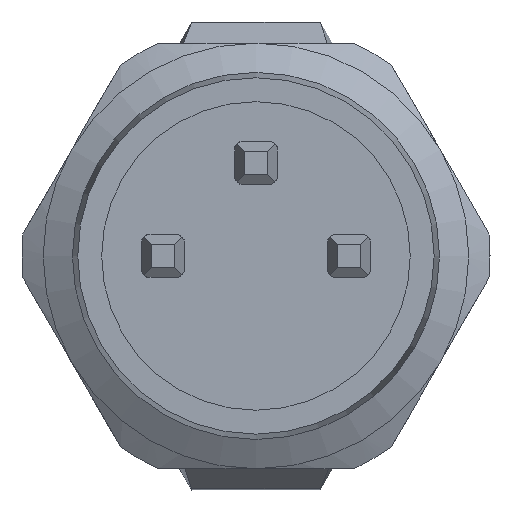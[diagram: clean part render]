
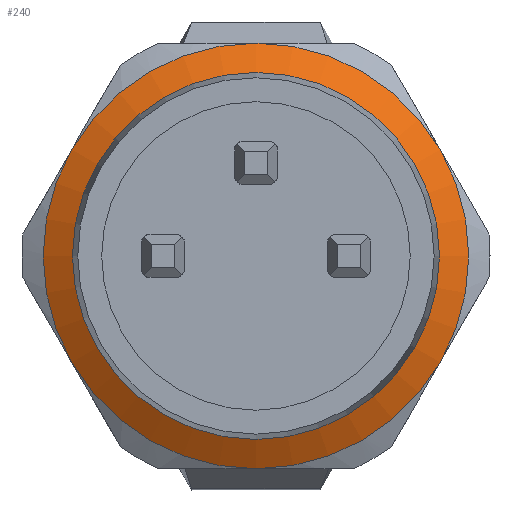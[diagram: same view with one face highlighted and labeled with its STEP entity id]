
A CAD part, left-side view. The second image highlights one B-rep face of the part: STEP entity #240.
In plain terms, the highlighted conical face has half-angle 60 degrees and reference radius 4 mm.
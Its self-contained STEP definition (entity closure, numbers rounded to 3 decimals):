
#240 = ADVANCED_FACE( '', ( #407, #408 ), #409, .T. );
#407 = FACE_BOUND( '', #603, .T. );
#408 = FACE_OUTER_BOUND( '', #604, .T. );
#409 = CONICAL_SURFACE( '', #605, 4., 1.047 );
#603 = EDGE_LOOP( '', ( #1095 ) );
#604 = EDGE_LOOP( '', ( #1096 ) );
#605 = AXIS2_PLACEMENT_3D( '', #1097, #1098, #1099 );
#1095 = ORIENTED_EDGE( '', *, *, #1375, .F. );
#1096 = ORIENTED_EDGE( '', *, *, #1376, .T. );
#1097 = CARTESIAN_POINT( '', ( -41.547, 0., 0. ) );
#1098 = DIRECTION( '', ( 1., 0., 0. ) );
#1099 = DIRECTION( '', ( 0., 0., -1. ) );
#1375 = EDGE_CURVE( '', #1641, #1641, #1642, .T. );
#1376 = EDGE_CURVE( '', #1643, #1643, #1644, .T. );
#1641 = VERTEX_POINT( '', #2209 );
#1642 = CIRCLE( '', #2210, 3.25 );
#1643 = VERTEX_POINT( '', #2211 );
#1644 = CIRCLE( '', #2212, 4. );
#2209 = CARTESIAN_POINT( '', ( -41.98, 0., 3.25 ) );
#2210 = AXIS2_PLACEMENT_3D( '', #2614, #2615, #2616 );
#2211 = CARTESIAN_POINT( '', ( -41.547, 0., 4. ) );
#2212 = AXIS2_PLACEMENT_3D( '', #2617, #2618, #2619 );
#2614 = CARTESIAN_POINT( '', ( -41.98, 0., 0. ) );
#2615 = DIRECTION( '', ( -1., 0., 0. ) );
#2616 = DIRECTION( '', ( 0., 0., 1. ) );
#2617 = CARTESIAN_POINT( '', ( -41.547, 0., 0. ) );
#2618 = DIRECTION( '', ( -1., 0., 0. ) );
#2619 = DIRECTION( '', ( 0., 0., 1. ) );
